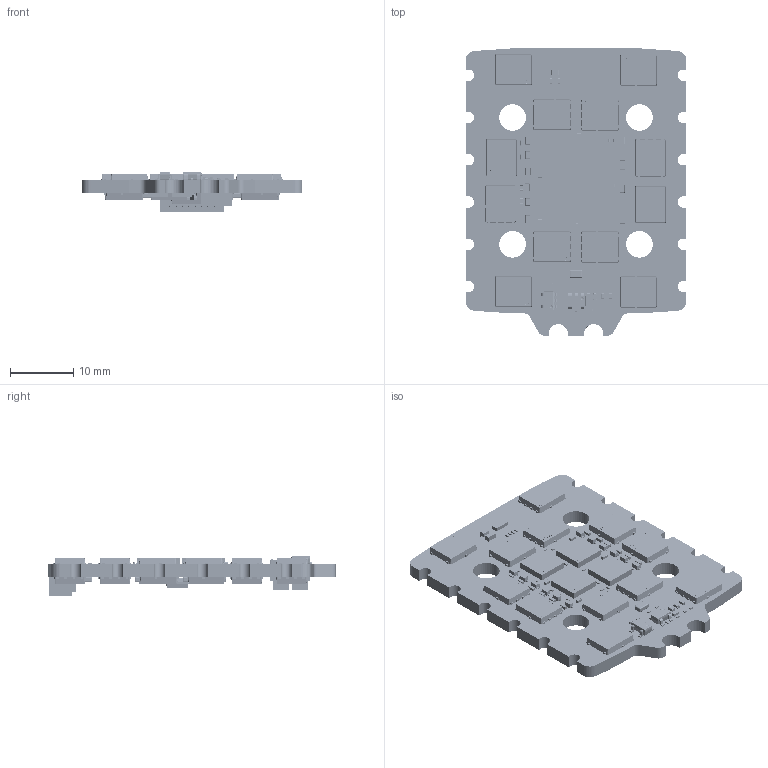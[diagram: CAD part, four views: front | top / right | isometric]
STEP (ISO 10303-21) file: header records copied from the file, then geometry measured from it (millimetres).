
FILE_DESCRIPTION(('Open CASCADE Model'),'2;1');
FILE_NAME('Open CASCADE Shape Model','2026-05-15T19:36:26',('Author'),( 'Open CASCADE'),'Open CASCADE STEP processor 6.8','Open CASCADE 6.8' ,'Unknown');
FILE_SCHEMA(('AUTOMOTIVE_DESIGN { 1 0 10303 214 1 1 1 1 }'));
Length unit declared in the file: millimetre
Products named in the file (307): PCB; Board; C31; User_Library-0805_SMD_Capacitor; C29; C18; User_Library-C0402-1; C12; C10; User_Library-0201(0603M)_Cap; C9; D15; 922924384; Extruded; D2; U1; Unnamed-PCBModelzhYH-U1; SOT-223-3_L6.5-W3.4-P2.30-LS7.0-BR; COMPOUND018; COMPOUND; COMPOUND001; COMPOUND002; COMPOUND003; COMPOUND004; COMPOUND005; COMPOUND006; COMPOUND007; COMPOUND008; COMPOUND009; COMPOUND010; COMPOUND011; COMPOUND012; COMPOUND013; COMPOUND014; COMPOUND015; COMPOUND016; COMPOUND017; R48; R0201; R36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
Assembly tree (485 placements, depth 6):
  PCB
    Board
    C31
      User_Library-0805_SMD_Capacitor
    C29
      User_Library-0805_SMD_Capacitor
    C18
      User_Library-C0402-1
    C12
      User_Library-C0402-1
    C10
      User_Library-0201(0603M)_Cap
    C9
      User_Library-0201(0603M)_Cap
    D15
      922924384
        Extruded
    D2
      922924384
        Extruded
    U1
      Unnamed-PCBModelzhYH-U1
        SOT-223-3_L6.5-W3.4-P2.30-LS7.0-BR
          COMPOUND018
            COMPOUND
            COMPOUND001
            COMPOUND002
            COMPOUND003
            COMPOUND004
            COMPOUND005
            COMPOUND006
            COMPOUND007
            COMPOUND008
            COMPOUND009
            COMPOUND010
            COMPOUND011
            COMPOUND012
            COMPOUND013
            COMPOUND014
            COMPOUND015
            COMPOUND016
            COMPOUND017
    R48
      R0201
    R36
      R0201
    C5
      User_Library-0201(0603M)_Cap
    C2
      User_Library-C0402-1
    U7
      Unnamed-PCBModeln2yA-U1
        QFN-32_L5.0-W5.0-P0.50-TL-EP3.5
          COMPOUND066
            COMPOUND
            COMPOUND001
            COMPOUND002
            COMPOUND003
            COMPOUND004
            COMPOUND005
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Bounding box: 34.83 x 45.31 x 6.26 mm (x, y, z)
Volume: 3907.3 mm3; surface area: 6926.6 mm2
Topology: 818 solids, 818 shells, 29772 faces, 102829 edges, 102304 vertices
Faces by surface type: plane 17009, bspline 8890, cylinder 2783, sphere 914, cone 96, torus 80
Full cylindrical faces by diameter (mm): 4.2 x4
Entity records: 204147 total; most frequent: CARTESIAN_POINT 65168, DIRECTION 21363, ORIENTED_EDGE 19606, LINE 11367, VECTOR 11367, EDGE_CURVE 9803, VERTEX_POINT 6351, GEOMETRIC_CURVE_SET 5970
